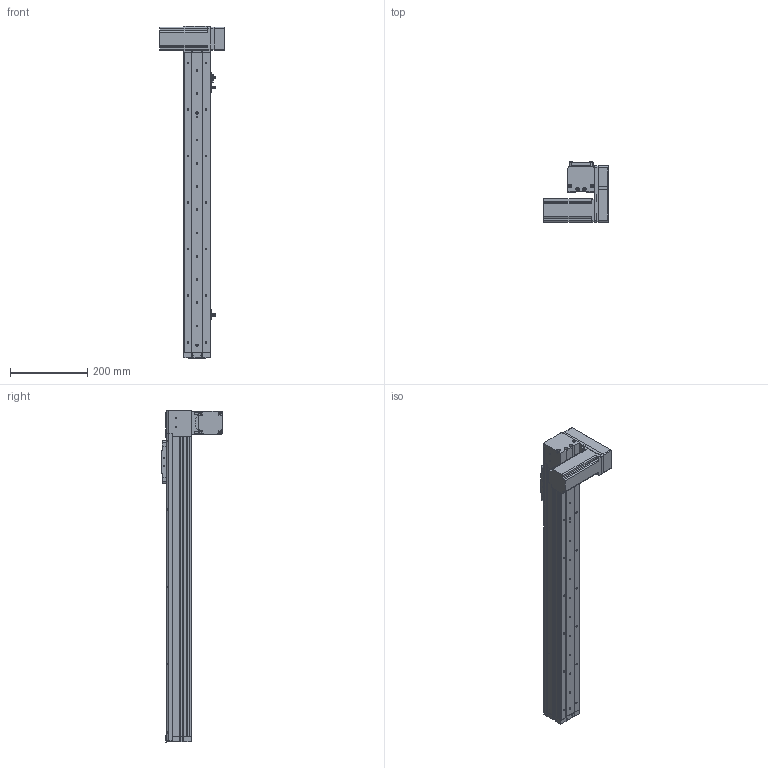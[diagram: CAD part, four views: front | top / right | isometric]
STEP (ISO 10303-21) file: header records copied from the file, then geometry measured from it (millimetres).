
FILE_DESCRIPTION (( 'STEP AP214' ), '1' );
FILE_NAME ('KSD68BS-S600-MLD-CR.STEP', '2019-08-27T03:39:10', ( '微软用户' ), ( '微软中国' ), 'SwSTEP 2.0', 'SolidWorks 2014', '' );
FILE_SCHEMA (( 'AUTOMOTIVE_DESIGN' ));
Length unit declared in the file: millimetre
Products named in the file (14): KSD68BS 600行程盖板全封闭; 68宽单导轨全封闭丝杆传动安装板1防护罩; KSD68BS 600行程侧板全封闭; 68宽单导轨全封闭同步带端板; 68单导轨全封闭同步带电机座左; 68单导轨全封闭同步带安装板; 悵誘欶奻狟殏; 68宽马达安装板连板上折同步带; 68遵裔啣揤啣1; 感应片68宽全封闭; U倰嫖萇EEㄜSX672; 台达ECMA－C20604AS伺服电机（400W); KSD68BS 600行程底板全封闭; KSD68BS-S600-MLD-CR
Assembly tree (17 placements, depth 2):
  KSD68BS-S600-MLD-CR
    KSD68BS 600行程底板全封闭
    台达ECMA－C20604AS伺服电机（400W)
    U倰嫖萇EEㄜSX672  x3
    感应片68宽全封闭
    68宽马达安装板连板上折同步带
    悵誘欶奻狟殏
    68单导轨全封闭同步带安装板
    68单导轨全封闭同步带电机座左
    68宽单导轨全封闭同步带端板
    KSD68BS 600行程侧板全封闭  x2
    68宽单导轨全封闭丝杆传动安装板1防护罩
    68遵裔啣揤啣1  x2
    KSD68BS 600行程盖板全封闭
Bounding box: 167.2 x 155.5 x 858.1 mm (x, y, z)
Volume: 1997465.5 mm3; surface area: 717808.4 mm2
Topology: 18 solids, 18 shells, 1439 faces, 4065 edges, 2608 vertices
Faces by surface type: cylinder 666, plane 625, cone 148
Entity records: 44995 total; most frequent: CARTESIAN_POINT 7665, DIRECTION 6770, ORIENTED_EDGE 6482, EDGE_CURVE 3241, AXIS2_PLACEMENT_3D 2425, VERTEX_POINT 2126, LINE 1920, VECTOR 1920
